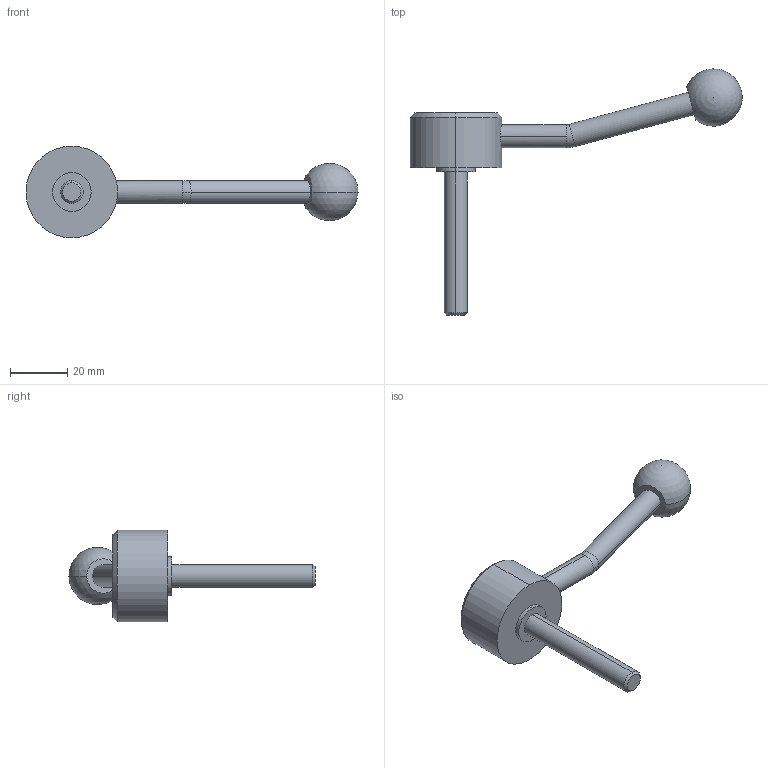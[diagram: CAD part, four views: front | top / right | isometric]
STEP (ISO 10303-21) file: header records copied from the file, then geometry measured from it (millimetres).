
FILE_DESCRIPTION (( 'STEP AP214' ), '1' );
FILE_NAME ('125.5-32-M8-50-E.step', '2020-02-18T11:26:50', ( '' ), ( '' ), 'SwSTEP 2.0', 'SolidWorks 2019', '' );
FILE_SCHEMA (( 'AUTOMOTIVE_DESIGN' ));
Length unit declared in the file: millimetre
Products named in the file (1): 125.5-32-M8-50-E
Bounding box: 115.96 x 86 x 32 mm (x, y, z)
Volume: 25452.2 mm3; surface area: 7598.3 mm2
Topology: 1 solids, 1 shells, 26 faces, 57 edges, 36 vertices
Faces by surface type: cylinder 12, plane 6, cone 4, torus 2, sphere 2
Entity records: 852 total; most frequent: CARTESIAN_POINT 178, DIRECTION 138, ORIENTED_EDGE 104, AXIS2_PLACEMENT_3D 61, EDGE_CURVE 52, CIRCLE 34, VERTEX_POINT 33, EDGE_LOOP 31
